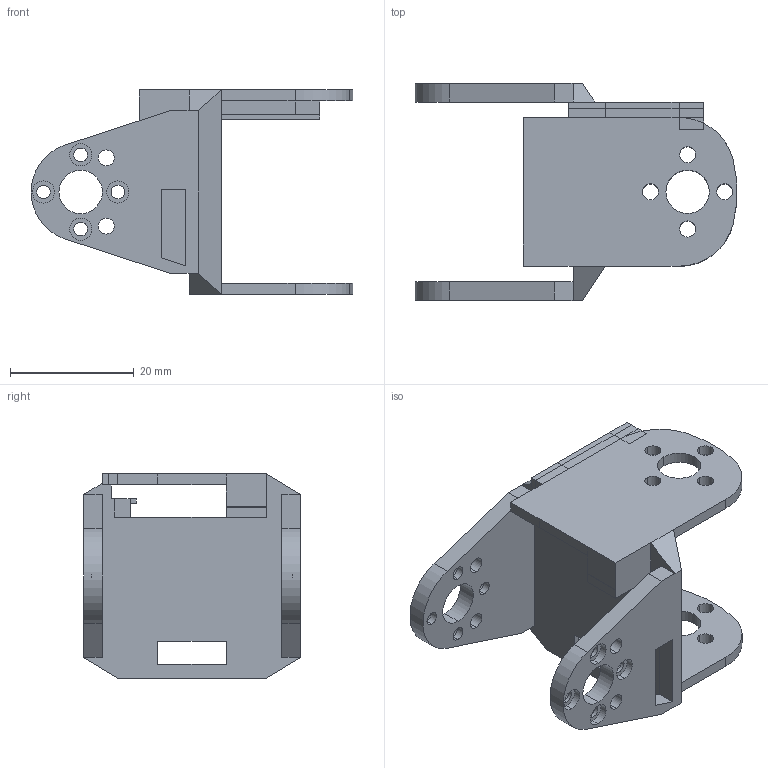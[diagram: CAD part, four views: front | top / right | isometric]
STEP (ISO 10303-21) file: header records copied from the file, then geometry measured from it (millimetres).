
FILE_DESCRIPTION (( 'STEP AP214' ), '1' );
FILE_NAME ('Thumb2.STEP', '2026-09-16T05:44:53', ( '' ), ( '' ), 'SwSTEP 2.0', 'SolidWorks 2024', '' );
FILE_SCHEMA (( 'AUTOMOTIVE_DESIGN' ));
Length unit declared in the file: millimetre
Products named in the file (2): 大拇指扣注螺母-加长-自带挡线-增大走线槽_默认; Thumb2
Assembly tree (1 placements, depth 2):
  Thumb2
    大拇指扣注螺母-加长-自带挡线-增大走线槽_默认
Bounding box: 51.9 x 35 x 33 mm (x, y, z)
Volume: 7269.7 mm3; surface area: 8139.6 mm2
Topology: 1 solids, 1 shells, 220 faces, 554 edges, 342 vertices
Faces by surface type: plane 130, cylinder 90
Entity records: 6671 total; most frequent: DIRECTION 1166, CARTESIAN_POINT 1123, ORIENTED_EDGE 1108, EDGE_CURVE 554, AXIS2_PLACEMENT_3D 389, LINE 388, VECTOR 388, VERTEX_POINT 342
